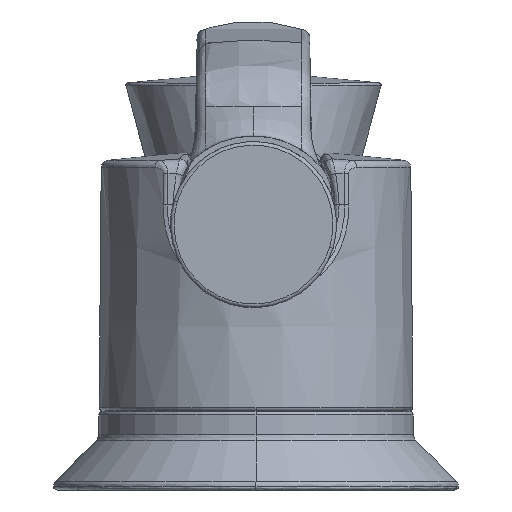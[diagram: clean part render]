
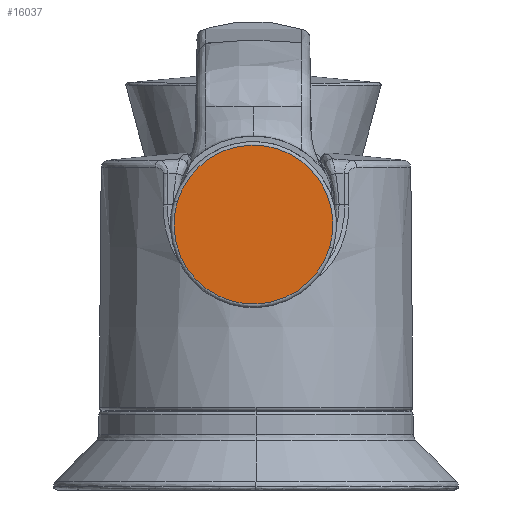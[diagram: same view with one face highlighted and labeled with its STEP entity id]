
A CAD part, front view. The second image highlights one B-rep face of the part: STEP entity #16037.
In plain terms, the highlighted planar face has unit normal (0, -1, 0).
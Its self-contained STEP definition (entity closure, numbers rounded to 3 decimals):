
#287 = EDGE_CURVE ( 'NONE', #17911, #20730, #3194, .T. ) ;
#2400 = ORIENTED_EDGE ( 'NONE', *, *, #287, .F. ) ;
#2532 = CARTESIAN_POINT ( 'NONE',  ( -11.52, -93.671, 40.494 ) ) ;
#2826 = ORIENTED_EDGE ( 'NONE', *, *, #7172, .F. ) ;
#3194 = CIRCLE ( 'NONE', #19388, 11.128 ) ;
#3453 = AXIS2_PLACEMENT_3D ( 'NONE', #21582, #18143, #8806 ) ;
#3786 = DIRECTION ( 'NONE',  ( 0.958, 0., -0.287 ) ) ;
#3971 = DIRECTION ( 'NONE',  ( 0.958, 0., -0.287 ) ) ;
#7172 = EDGE_CURVE ( 'NONE', #20730, #17911, #16588, .T. ) ;
#7325 = CARTESIAN_POINT ( 'NONE',  ( -0.359, -93.671, 37.153 ) ) ;
#8785 = AXIS2_PLACEMENT_3D ( 'NONE', #2532, #20588, #3971 ) ;
#8806 = DIRECTION ( 'NONE',  ( 0.958, 0., -0.287 ) ) ;
#9746 = EDGE_LOOP ( 'NONE', ( #2826, #2400 ) ) ;
#11399 = FACE_OUTER_BOUND ( 'NONE', #9746, .T. ) ;
#11641 = PLANE ( 'NONE',  #8785 ) ;
#15797 = CARTESIAN_POINT ( 'NONE',  ( 10.302, -93.671, 33.963 ) ) ;
#16037 = ADVANCED_FACE ( 'NONE', ( #11399 ), #11641, .T. ) ;
#16588 = CIRCLE ( 'NONE', #3453, 11.128 ) ;
#17911 = VERTEX_POINT ( 'NONE', #22542 ) ;
#18143 = DIRECTION ( 'NONE',  ( 0., 1., 0. ) ) ;
#19388 = AXIS2_PLACEMENT_3D ( 'NONE', #7325, #20168, #3786 ) ;
#20168 = DIRECTION ( 'NONE',  ( 0., 1., 0. ) ) ;
#20588 = DIRECTION ( 'NONE',  ( 0., -1., 0. ) ) ;
#20730 = VERTEX_POINT ( 'NONE', #15797 ) ;
#21582 = CARTESIAN_POINT ( 'NONE',  ( -0.359, -93.671, 37.153 ) ) ;
#22542 = CARTESIAN_POINT ( 'NONE',  ( -11.02, -93.671, 40.344 ) ) ;
